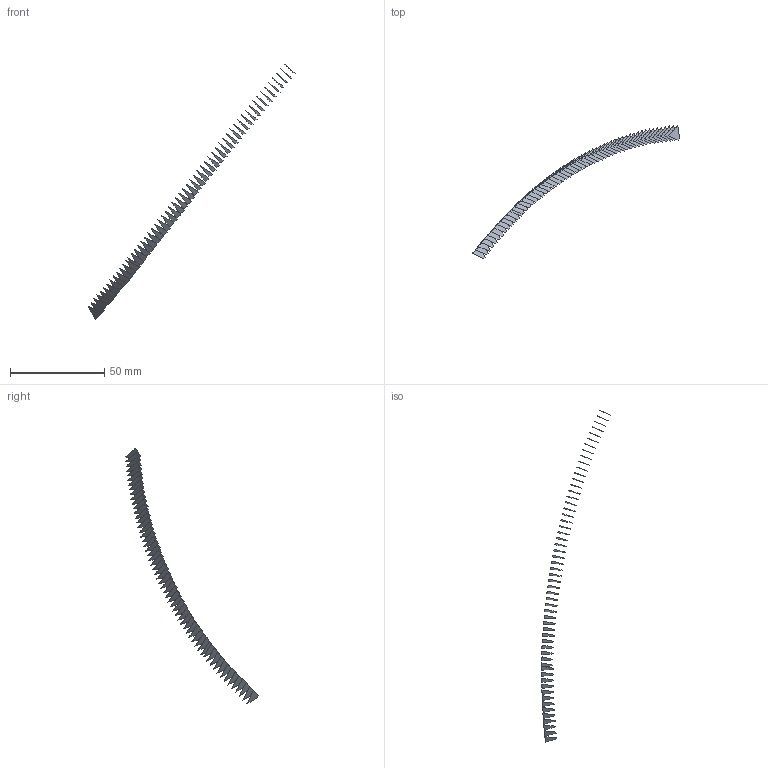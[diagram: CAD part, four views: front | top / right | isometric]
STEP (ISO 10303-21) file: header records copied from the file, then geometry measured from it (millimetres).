
FILE_DESCRIPTION(('FreeCAD Model'),'2;1');
FILE_NAME('Open CASCADE Shape Model','2022-05-22T07:50:31',('FreeCAD'),( 'FreeCAD'),'Open CASCADE STEP processor 7.5','FreeCAD','Unknown');
FILE_SCHEMA(('AUTOMOTIVE_DESIGN { 1 0 10303 214 1 1 1 1 }'));
Length unit declared in the file: millimetre
Products named in the file (58): Open CASCADE STEP translator 7.5 10; Open CASCADE STEP translator 7.5 10.1; Open CASCADE STEP translator 7.5 10.2; Open CASCADE STEP translator 7.5 10.3; Open CASCADE STEP translator 7.5 10.4; Open CASCADE STEP translator 7.5 10.5; Open CASCADE STEP translator 7.5 10.6; Open CASCADE STEP translator 7.5 10.7; Open CASCADE STEP translator 7.5 10.8; Open CASCADE STEP translator 7.5 10.9; Open CASCADE STEP translator 7.5 10.10; Open CASCADE STEP translator 7.5 10.11; Open CASCADE STEP translator 7.5 10.12; Open CASCADE STEP translator 7.5 10.13; Open CASCADE STEP translator 7.5 10.14; Open CASCADE STEP translator 7.5 10.15; Open CASCADE STEP translator 7.5 10.16; Open CASCADE STEP translator 7.5 10.17; Open CASCADE STEP translator 7.5 10.18; Open CASCADE STEP translator 7.5 10.19; Open CASCADE STEP translator 7.5 10.20; Open CASCADE STEP translator 7.5 10.21; Open CASCADE STEP translator 7.5 10.22; Open CASCADE STEP translator 7.5 10.23; Open CASCADE STEP translator 7.5 10.24; Open CASCADE STEP translator 7.5 10.25; Open CASCADE STEP translator 7.5 10.26; Open CASCADE STEP translator 7.5 10.27; Open CASCADE STEP translator 7.5 10.28; Open CASCADE STEP translator 7.5 10.29; Open CASCADE STEP translator 7.5 10.30; Open CASCADE STEP translator 7.5 10.31; Open CASCADE STEP translator 7.5 10.32; Open CASCADE STEP translator 7.5 10.33; Open CASCADE STEP translator 7.5 10.34; Open CASCADE STEP translator 7.5 10.35; Open CASCADE STEP translator 7.5 10.36; Open CASCADE STEP translator 7.5 10.37; Open CASCADE STEP translator 7.5 10.38; Open CASCADE STEP translator 7.5 10.39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
Assembly tree (57 placements, depth 2):
  Open CASCADE STEP translator 7.5 10
    Open CASCADE STEP translator 7.5 10.1
    Open CASCADE STEP translator 7.5 10.2
    Open CASCADE STEP translator 7.5 10.3
    Open CASCADE STEP translator 7.5 10.4
    Open CASCADE STEP translator 7.5 10.5
    Open CASCADE STEP translator 7.5 10.6
    Open CASCADE STEP translator 7.5 10.7
    Open CASCADE STEP translator 7.5 10.8
    Open CASCADE STEP translator 7.5 10.9
    Open CASCADE STEP translator 7.5 10.10
    Open CASCADE STEP translator 7.5 10.11
    Open CASCADE STEP translator 7.5 10.12
    Open CASCADE STEP translator 7.5 10.13
    Open CASCADE STEP translator 7.5 10.14
    Open CASCADE STEP translator 7.5 10.15
    Open CASCADE STEP translator 7.5 10.16
    Open CASCADE STEP translator 7.5 10.17
    Open CASCADE STEP translator 7.5 10.18
    Open CASCADE STEP translator 7.5 10.19
    Open CASCADE STEP translator 7.5 10.20
    Open CASCADE STEP translator 7.5 10.21
    Open CASCADE STEP translator 7.5 10.22
    Open CASCADE STEP translator 7.5 10.23
    Open CASCADE STEP translator 7.5 10.24
    Open CASCADE STEP translator 7.5 10.25
    Open CASCADE STEP translator 7.5 10.26
    Open CASCADE STEP translator 7.5 10.27
    Open CASCADE STEP translator 7.5 10.28
    Open CASCADE STEP translator 7.5 10.29
    Open CASCADE STEP translator 7.5 10.30
    Open CASCADE STEP translator 7.5 10.31
    Open CASCADE STEP translator 7.5 10.32
    Open CASCADE STEP translator 7.5 10.33
    Open CASCADE STEP translator 7.5 10.34
    Open CASCADE STEP translator 7.5 10.35
    Open CASCADE STEP translator 7.5 10.36
    Open CASCADE STEP translator 7.5 10.37
    Open CASCADE STEP translator 7.5 10.38
    Open CASCADE STEP translator 7.5 10.39
    Open CASCADE STEP translator 7.5 10.40
    Open CASCADE STEP translator 7.5 10.41
    Open CASCADE STEP translator 7.5 10.42
    Open CASCADE STEP translator 7.5 10.43
    Open CASCADE STEP translator 7.5 10.44
    Open CASCADE STEP translator 7.5 10.45
    Open CASCADE STEP translator 7.5 10.46
    Open CASCADE STEP translator 7.5 10.47
    Open CASCADE STEP translator 7.5 10.48
    Open CASCADE STEP translator 7.5 10.49
    Open CASCADE STEP translator 7.5 10.50
    Open CASCADE STEP translator 7.5 10.51
    Open CASCADE STEP translator 7.5 10.52
    Open CASCADE STEP translator 7.5 10.53
    Open CASCADE STEP translator 7.5 10.54
    Open CASCADE STEP translator 7.5 10.55
    Open CASCADE STEP translator 7.5 10.56
    Open CASCADE STEP translator 7.5 10.57
Bounding box: 109.93 x 70.36 x 135.57 mm (x, y, z)
Surface area: 1838.5 mm2 (no closed solid volume)
Topology: 0 solids, 57 shells, 57 faces, 1034 edges, 1034 vertices
Faces by surface type: bspline 57
Entity records: 15054 total; most frequent: CARTESIAN_POINT 5456, B_SPLINE_CURVE_WITH_KNOTS 2068, ORIENTED_EDGE 1034, EDGE_CURVE 1034, VERTEX_POINT 1034, SURFACE_CURVE 1034, PCURVE 1034, DEFINITIONAL_REPRESENTATION 1034
